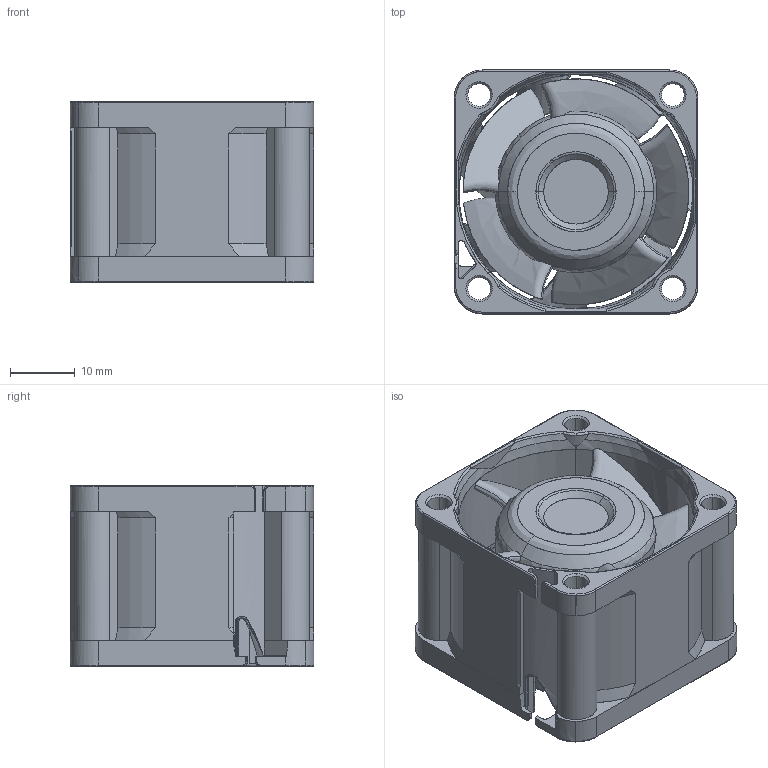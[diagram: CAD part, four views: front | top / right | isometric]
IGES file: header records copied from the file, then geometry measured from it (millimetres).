
Start section: SolidWorks IGES file using analytic representation for surfaces
Global section: file name: C:\Users\Okuda-Yuusuke\Desktop\公開用3D\●【公開用３D】38x28_9GA\38x28GA_ribbed.IGS; native system: SolidWorks 2016; preprocessor: SolidWorks 2016; author: Okuda-Yuusuke; date: 170131.183208; units: millimetre
Bounding box: 37.8 x 37.8 x 28 mm (x, y, z)
Surface area: 14651.5 mm2 (no closed solid volume)
Topology: 0 solids, 0 shells, 364 faces, 4227 edges, 4226 vertices
Faces by surface type: revolution 186, bspline 178
